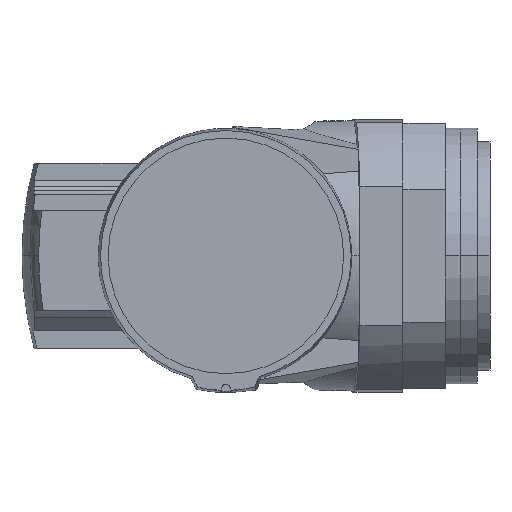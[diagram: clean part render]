
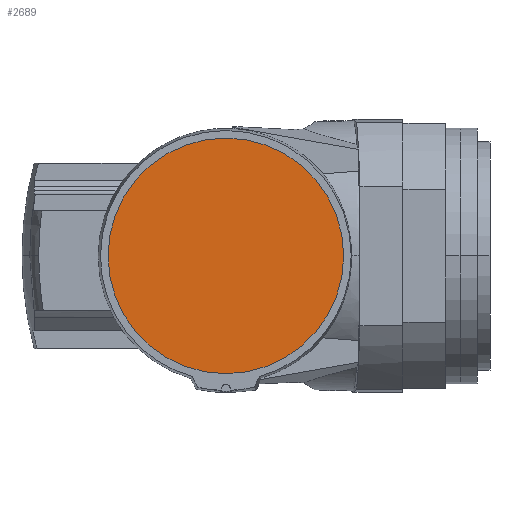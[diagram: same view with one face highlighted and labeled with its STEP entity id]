
A CAD part, front view. The second image highlights one B-rep face of the part: STEP entity #2689.
In plain terms, the highlighted planar face has unit normal (0, -1, 0).
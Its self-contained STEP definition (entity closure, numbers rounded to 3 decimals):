
#1398 = CARTESIAN_POINT ( 'NONE',  ( 1730., -97., 2125. ) ) ;
#2267 = EDGE_CURVE ( 'NONE', #7859, #8020, #7321, .T. ) ;
#2370 = EDGE_CURVE ( 'NONE', #8020, #7859, #7440, .T. ) ;
#2689 = ADVANCED_FACE ( 'NONE', ( #4006 ), #6248, .F. ) ;
#2896 = AXIS2_PLACEMENT_3D ( 'NONE', #5033, #5035, #5037 ) ;
#2917 = AXIS2_PLACEMENT_3D ( 'NONE', #5434, #5436, #5438 ) ;
#3021 = AXIS2_PLACEMENT_3D ( 'NONE', #6243, #6251, #6252 ) ;
#4006 = FACE_OUTER_BOUND ( 'NONE', #6131, .T. ) ;
#5033 = CARTESIAN_POINT ( 'NONE',  ( 1812.5, -97., 2125. ) ) ;
#5035 = DIRECTION ( 'NONE',  ( 0., 1., 0. ) ) ;
#5037 = DIRECTION ( 'NONE',  ( 0., 0., -1. ) ) ;
#5434 = CARTESIAN_POINT ( 'NONE',  ( 1812.5, -97., 2125. ) ) ;
#5436 = DIRECTION ( 'NONE',  ( 0., 1., 0. ) ) ;
#5438 = DIRECTION ( 'NONE',  ( 0., 0., -1. ) ) ;
#6131 = EDGE_LOOP ( 'NONE', ( #8131, #8172 ) ) ;
#6243 = CARTESIAN_POINT ( 'NONE',  ( 1734.5, -97., 2125. ) ) ;
#6248 = PLANE ( 'NONE',  #3021 ) ;
#6251 = DIRECTION ( 'NONE',  ( 0., 1., 0. ) ) ;
#6252 = DIRECTION ( 'NONE',  ( -1., 0., 0. ) ) ;
#6798 = CARTESIAN_POINT ( 'NONE',  ( 1895., -97., 2125. ) ) ;
#7321 = CIRCLE ( 'NONE', #2896, 82.5 ) ;
#7440 = CIRCLE ( 'NONE', #2917, 82.5 ) ;
#7859 = VERTEX_POINT ( 'NONE', #1398 ) ;
#8020 = VERTEX_POINT ( 'NONE', #6798 ) ;
#8131 = ORIENTED_EDGE ( 'NONE', *, *, #2267, .F. ) ;
#8172 = ORIENTED_EDGE ( 'NONE', *, *, #2370, .F. ) ;
